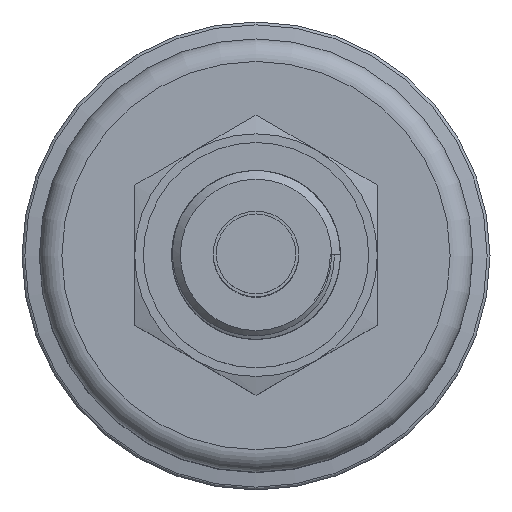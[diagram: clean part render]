
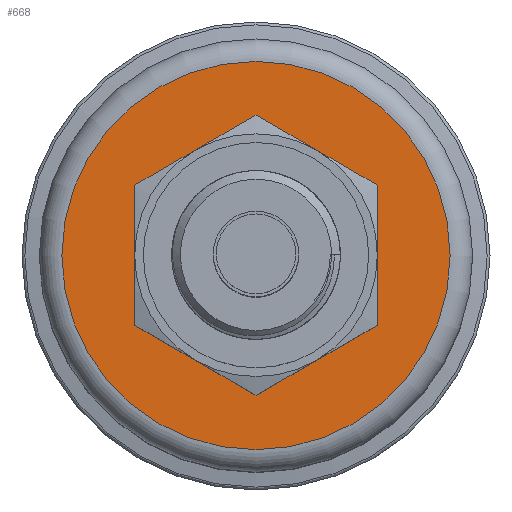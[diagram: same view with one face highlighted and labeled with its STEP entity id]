
A CAD part, top view. The second image highlights one B-rep face of the part: STEP entity #668.
In plain terms, the highlighted planar face has unit normal (0, 0, 1).
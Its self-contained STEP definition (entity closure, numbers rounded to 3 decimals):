
#633=PLANE('',#1413);
#668=ADVANCED_FACE('',(#767,#768),#633,.T.);
#767=FACE_BOUND('',#851,.T.);
#768=FACE_BOUND('',#852,.T.);
#851=EDGE_LOOP('',(#962));
#852=EDGE_LOOP('',(#963));
#962=ORIENTED_EDGE('',*,*,#1226,.T.);
#963=ORIENTED_EDGE('',*,*,#1238,.F.);
#1147=VERTEX_POINT('',#1777);
#1159=VERTEX_POINT('',#1812);
#1226=EDGE_CURVE('',#1147,#1147,#1330,.T.);
#1238=EDGE_CURVE('',#1159,#1159,#1342,.T.);
#1330=CIRCLE('',#1388,5.35);
#1342=CIRCLE('',#1411,11.2);
#1388=AXIS2_PLACEMENT_3D('',#1776,#1515,#1516);
#1411=AXIS2_PLACEMENT_3D('',#1811,#1561,#1562);
#1413=AXIS2_PLACEMENT_3D('',#1814,#1565,#1566);
#1515=DIRECTION('',(0.,0.,-1.));
#1516=DIRECTION('',(1.,0.,0.));
#1561=DIRECTION('',(0.,0.,-1.));
#1562=DIRECTION('',(1.,0.,0.));
#1565=DIRECTION('',(0.,0.,1.));
#1566=DIRECTION('',(-1.,0.,0.));
#1776=CARTESIAN_POINT('',(0.,0.,-7.5));
#1777=CARTESIAN_POINT('',(5.35,0.,-7.5));
#1811=CARTESIAN_POINT('',(0.,0.,-7.5));
#1812=CARTESIAN_POINT('',(11.2,0.,-7.5));
#1814=CARTESIAN_POINT('',(-11.2,0.,-7.5));
